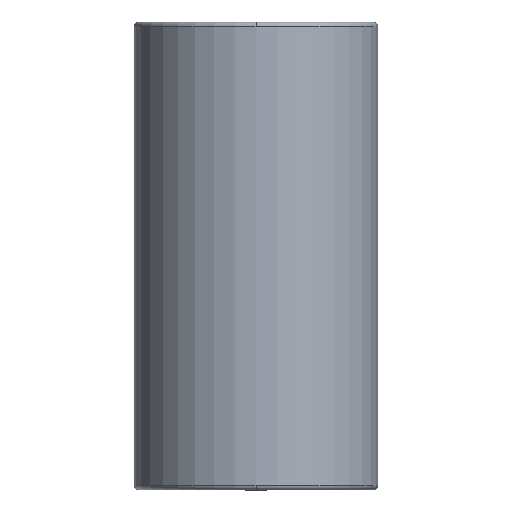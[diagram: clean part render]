
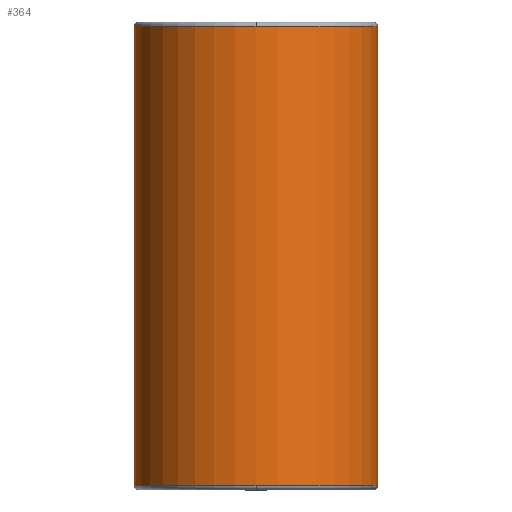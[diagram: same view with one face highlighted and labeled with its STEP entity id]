
A CAD part, front view. The second image highlights one B-rep face of the part: STEP entity #364.
In plain terms, the highlighted cylindrical face has radius 55.992 mm (diameter 111.984 mm), a partial arc.
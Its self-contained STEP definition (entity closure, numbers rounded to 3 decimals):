
#269=CARTESIAN_POINT('',(0.0,-55.992,213.0));
#270=VERTEX_POINT('',#269);
#296=CARTESIAN_POINT('',(-55.992,0.,213.0));
#297=VERTEX_POINT('',#296);
#305=CARTESIAN_POINT('',(0.0,0.,213.0));
#306=DIRECTION('',(0.0,0.0,1.0));
#307=DIRECTION('',(1.0,0.0,0.0));
#308=AXIS2_PLACEMENT_3D('',#305,#306,#307);
#309=CIRCLE('',#308,55.992);
#310=EDGE_CURVE('',#297,#270,#309,.T.);
#315=CARTESIAN_POINT('',(0.0,0.,107.5));
#316=DIRECTION('',(0.0,0.,1.0));
#317=DIRECTION('',(1.0,0.0,0.0));
#318=AXIS2_PLACEMENT_3D('',#315,#316,#317);
#319=CYLINDRICAL_SURFACE('',#318,55.992);
#320=CARTESIAN_POINT('',(55.992,0.,213.0));
#321=VERTEX_POINT('',#320);
#322=CARTESIAN_POINT('',(55.992,0.,2.));
#323=VERTEX_POINT('',#322);
#324=CARTESIAN_POINT('',(55.992,0.,213.0));
#325=DIRECTION('',(0.0,0.0,-1.0));
#326=VECTOR('',#325,211.0);
#327=LINE('',#324,#326);
#328=EDGE_CURVE('',#321,#323,#327,.T.);
#329=ORIENTED_EDGE('',*,*,#328,.F.);
#330=CARTESIAN_POINT('',(0.0,0.,213.0));
#331=DIRECTION('',(0.0,0.0,1.0));
#332=DIRECTION('',(1.0,0.0,0.0));
#333=AXIS2_PLACEMENT_3D('',#330,#331,#332);
#334=CIRCLE('',#333,55.992);
#335=EDGE_CURVE('',#270,#321,#334,.T.);
#336=ORIENTED_EDGE('',*,*,#335,.F.);
#337=ORIENTED_EDGE('',*,*,#310,.F.);
#338=CARTESIAN_POINT('',(-55.992,0.,2.0));
#339=VERTEX_POINT('',#338);
#340=CARTESIAN_POINT('',(-55.992,0.,213.0));
#341=DIRECTION('',(0.0,0.0,-1.0));
#342=VECTOR('',#341,211.0);
#343=LINE('',#340,#342);
#344=EDGE_CURVE('',#297,#339,#343,.T.);
#345=ORIENTED_EDGE('',*,*,#344,.T.);
#346=CARTESIAN_POINT('',(0.0,-55.992,2.));
#347=VERTEX_POINT('',#346);
#348=CARTESIAN_POINT('',(0.0,0.,2.0));
#349=DIRECTION('',(0.0,0.0,1.0));
#350=DIRECTION('',(1.0,0.0,0.0));
#351=AXIS2_PLACEMENT_3D('',#348,#349,#350);
#352=CIRCLE('',#351,55.992);
#353=EDGE_CURVE('',#339,#347,#352,.T.);
#354=ORIENTED_EDGE('',*,*,#353,.T.);
#355=CARTESIAN_POINT('',(0.0,0.,2.0));
#356=DIRECTION('',(0.0,0.0,1.0));
#357=DIRECTION('',(1.0,0.0,0.0));
#358=AXIS2_PLACEMENT_3D('',#355,#356,#357);
#359=CIRCLE('',#358,55.992);
#360=EDGE_CURVE('',#347,#323,#359,.T.);
#361=ORIENTED_EDGE('',*,*,#360,.T.);
#362=EDGE_LOOP('',(#329,#336,#337,#345,#354,#361));
#363=FACE_OUTER_BOUND('',#362,.T.);
#364=ADVANCED_FACE('',(#363),#319,.T.);
